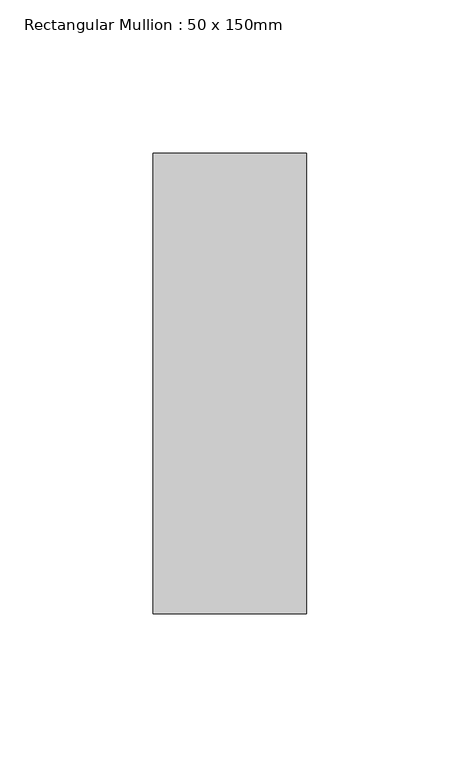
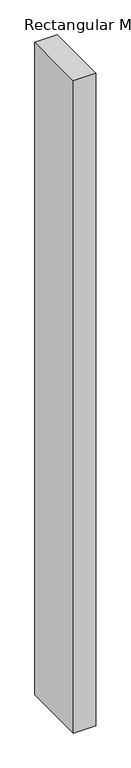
"""IFC4 building model written with IfcOpenShell, lengths in millimetres: member geometry, Rectangular Mullion : 50 x 150mm."""

import ifcopenshell
import ifcopenshell.guid

model = None  # the IFC model being written
_history = None  # IfcOwnerHistory: only IFC2X3 demands one
_inside = {}  # id of a spatial element -> (the spatial element, [elements in it])
_under = {}  # id of a project, library or spatial element -> (it, [spatial elements below it])
_declared = {}  # id of a project -> (the project, [libraries it declares])
_typed = {}  # id of a type object -> (the type object, [elements of that type])
_made_of = {}  # id of a material, layer set ... -> (it, [elements and type objects made of it])


def new_model(schema):
    """Start an empty IFC model of exactly this schema.

    Asked for "IFC4X3", IfcOpenShell would pick the latest addendum, in which some entities
    have other attributes; the version numbers below select the first issue.
    IFC2X3 requires an IfcOwnerHistory on every rooted entity: one is made here for all.
    """
    global model, _history
    if schema == "IFC4X3":
        model = ifcopenshell.file(schema_version=(4, 3, 0, 0))
    else:
        model = ifcopenshell.file(schema=schema)
    _inside.clear()
    _under.clear()
    _declared.clear()
    _typed.clear()
    _made_of.clear()
    _history = None
    if model.schema == "IFC2X3":
        org = make("IfcOrganization", Name="unknown")
        user = make(
            "IfcPersonAndOrganization",
            ThePerson=make("IfcPerson", FamilyName="unknown"),
            TheOrganization=org,
        )
        app = make(
            "IfcApplication",
            ApplicationDeveloper=org,
            Version="unknown",
            ApplicationFullName="unknown",
            ApplicationIdentifier="unknown",
        )
        _history = make(
            "IfcOwnerHistory",
            OwningUser=user,
            OwningApplication=app,
            ChangeAction="ADDED",
            CreationDate=0,
        )
    return model


def make(cls, **values):
    """One entity of the class cls with the attributes given. An attribute that is None is left unset."""
    return model.create_entity(
        cls, **{name: value for name, value in values.items() if value is not None}
    )


def rooted(cls, **values):
    """An entity with a GlobalId (a new one), such as an element, a storey or a relation."""
    return make(cls, GlobalId=ifcopenshell.guid.new(), OwnerHistory=_history, **values)


def si_unit(unit_type, name, prefix=None):
    """IfcSIUnit, for example si_unit("LENGTHUNIT", "METRE", prefix="MILLI")."""
    return make("IfcSIUnit", UnitType=unit_type, Prefix=prefix, Name=name)


def assignment(units):
    """IfcUnitAssignment: the units of a project."""
    return None if units is None else make("IfcUnitAssignment", Units=units)


def point(xyz):
    """IfcCartesianPoint."""
    return None if xyz is None else make("IfcCartesianPoint", Coordinates=xyz)


def direction(xyz):
    """IfcDirection."""
    return None if xyz is None else make("IfcDirection", DirectionRatios=xyz)


def frame(location, z_axis=None, x_axis=None):
    """IfcAxis2Placement3D, a coordinate frame: its origin and axes. An axis left out is left unset."""
    return make(
        "IfcAxis2Placement3D",
        Location=point(location),
        Axis=direction(z_axis),
        RefDirection=direction(x_axis),
    )


def origin():
    """The frame at (0, 0, 0) with its axes left unset."""
    return frame((0.0, 0.0, 0.0))


def place(relative_to, where):
    """IfcLocalPlacement: puts the frame where relative to a parent placement (None: the world)."""
    return make(
        "IfcLocalPlacement", PlacementRelTo=relative_to, RelativePlacement=where
    )


def context(
    kind, dimensions, precision=None, world=None, true_north=None, identifier=None
):
    """IfcGeometricRepresentationContext, for example the 3D "Model" context."""
    return make(
        "IfcGeometricRepresentationContext",
        ContextIdentifier=identifier,
        ContextType=kind,
        CoordinateSpaceDimension=dimensions,
        Precision=precision,
        WorldCoordinateSystem=world,
        TrueNorth=true_north,
    )


def project(units=None, contexts=None):
    """IfcProject with its units and contexts."""
    return rooted(
        "IfcProject",
        Name="project",
        RepresentationContexts=contexts,
        UnitsInContext=assignment(units),
    )


def spatial(cls, under=None, at=None, **own):
    """A site, building, storey or space (cls), placed at a placement, below another one or the project."""
    s = rooted(cls, ObjectPlacement=at, **own)
    if under is not None:
        _under.setdefault(under.id(), (under, []))[1].append(s)
    return s


def polyline(points):
    """IfcPolyline through the points."""
    return make("IfcPolyline", Points=[point(p) for p in points])


def outline(outer, holes=None, kind="AREA"):
    """IfcArbitraryClosedProfileDef: a profile drawn as a closed curve; with holes, ...WithVoids."""
    if holes is None:
        return make("IfcArbitraryClosedProfileDef", ProfileType=kind, OuterCurve=outer)
    return make(
        "IfcArbitraryProfileDefWithVoids",
        ProfileType=kind,
        OuterCurve=outer,
        InnerCurves=holes,
    )


def extrude(swept, where, along, depth):
    """IfcExtrudedAreaSolid: the profile swept, set in the frame where, extruded along a direction by depth."""
    return make(
        "IfcExtrudedAreaSolid",
        SweptArea=swept,
        Position=where,
        ExtrudedDirection=direction(along),
        Depth=depth,
    )


def shape(context_of_items, identifier, shape_type, items):
    """IfcShapeRepresentation: the items that make up one representation, for example the "Body"."""
    return make(
        "IfcShapeRepresentation",
        ContextOfItems=context_of_items,
        RepresentationIdentifier=identifier,
        RepresentationType=shape_type,
        Items=items,
    )


def source(mapping_origin, context_of_items, identifier, shape_type, items):
    """IfcRepresentationMap: a shape defined once, which mapped items show again and again."""
    return make(
        "IfcRepresentationMap",
        MappingOrigin=mapping_origin,
        MappedRepresentation=shape(context_of_items, identifier, shape_type, items),
    )


def transform(
    local_origin,
    x_axis=None,
    y_axis=None,
    z_axis=None,
    scale=None,
    scale2=None,
    scale3=None,
    uniform=True,
):
    """IfcCartesianTransformationOperator3D, or its non-uniform kind. x_axis, y_axis, z_axis: its Axis1, 2, 3."""
    if uniform:
        return make(
            "IfcCartesianTransformationOperator3D",
            Axis1=direction(x_axis),
            Axis2=direction(y_axis),
            LocalOrigin=point(local_origin),
            Scale=scale,
            Axis3=direction(z_axis),
        )
    return make(
        "IfcCartesianTransformationOperator3DnonUniform",
        Axis1=direction(x_axis),
        Axis2=direction(y_axis),
        LocalOrigin=point(local_origin),
        Scale=scale,
        Axis3=direction(z_axis),
        Scale2=scale2,
        Scale3=scale3,
    )


def mapped(mapping_source, mapping_target):
    """IfcMappedItem: shows the shape of a source again, moved by a transform."""
    return make(
        "IfcMappedItem", MappingSource=mapping_source, MappingTarget=mapping_target
    )


def made_of(thing, what):
    """Note that an element or type object is made of a material, layer set ...; save() writes the relation."""
    if what is not None:
        _made_of.setdefault(what.id(), (what, []))[1].append(thing)
    return thing


def element(
    cls,
    number,
    at=None,
    inside=None,
    cuts=None,
    type_object=None,
    material=None,
    context=None,
    identifier="Body",
    shape_type=None,
    held_by="IfcProductDefinitionShape",
    body=None,
    shapes=None,
    **own,
):
    """One element of the class cls, such as IfcWall. Its Tag is "e" and its number.

    at: its placement. inside: the storey or other place that contains it. cuts: it is an
    opening in that element (IfcRelVoidsElement). A single representation is given by context,
    identifier, shape_type and body (its items); several are given by shapes. held_by: the class
    of the entity that holds the representations. save() writes the other relations.
    """
    e = rooted(cls, Tag="e%d" % number, ObjectPlacement=at, **own)
    if body is not None:
        shapes = [shape(context, identifier, shape_type, body)]
    if shapes is not None:
        e.Representation = make(held_by, Representations=shapes)
    if inside is not None:
        _inside.setdefault(inside.id(), (inside, []))[1].append(e)
    if cuts is not None:
        rooted(
            "IfcRelVoidsElement", RelatingBuildingElement=cuts, RelatedOpeningElement=e
        )
    if type_object is not None:
        _typed.setdefault(type_object.id(), (type_object, []))[1].append(e)
    return made_of(e, material)


def aggregate(whole, parts):
    """IfcRelAggregates: a whole, such as a stair, and the parts it consists of."""
    return rooted("IfcRelAggregates", RelatingObject=whole, RelatedObjects=parts)


def save(model, path):
    """Write the relations noted so far, then the file.

    IfcRelAggregates (storeys below a building ...), IfcRelContainedInSpatialStructure (elements
    in a storey), IfcRelDefinesByType, IfcRelAssociatesMaterial and IfcRelDeclares: one each for
    every whole, place, type object, material and project.
    """
    for whole, parts in _under.values():
        aggregate(whole, parts)
    for where, things in _inside.values():
        rooted(
            "IfcRelContainedInSpatialStructure",
            RelatedElements=things,
            RelatingStructure=where,
        )
    for kind, things in _typed.values():
        rooted("IfcRelDefinesByType", RelatedObjects=things, RelatingType=kind)
    for what, things in _made_of.values():
        rooted("IfcRelAssociatesMaterial", RelatedObjects=things, RelatingMaterial=what)
    for by, libraries in _declared.values():
        rooted("IfcRelDeclares", RelatingContext=by, RelatedDefinitions=libraries)
    model.write(path)


def rectangular_mullion_50_x_150mm_66b35e09(model_context):
    return source(origin(), model_context, "Body", "SweptSolid", [
        extrude(outline(polyline([(0.0, 0.0), (-0.2077709, -50.0), (-1550.6740233, -50.0), (-1550.8329914, 0.0), (0.0, 0.0)])), frame((0.0, -75.0, 0.0), z_axis=(0.0, 1.0, 0.0), x_axis=(0.0, 0.0, 1.0)), (0.0, 0.0, 1.0), 150.0),
    ])


if __name__ == "__main__":
    model = new_model("IFC4")
    model_context = context("Model", 3, world=origin())
    ifc_project = project(units=[si_unit("LENGTHUNIT", "METRE", prefix="MILLI")], contexts=[model_context])
    site = spatial("IfcSite", under=ifc_project)
    building = spatial("IfcBuilding", under=site)
    placement = place(None, origin())
    rectangular_mullion_50_x_150mm_shape = rectangular_mullion_50_x_150mm_66b35e09(model_context)
    element("IfcMember", 1, ObjectType="Rectangular Mullion : 50 x 150mm", at=placement, inside=building, context=model_context, shape_type="MappedRepresentation", body=[
        mapped(rectangular_mullion_50_x_150mm_shape, transform((0.0, 0.0, 0.0), x_axis=(1.0, 0.0, 0.0), y_axis=(0.0, 1.0, 0.0), z_axis=(0.0, 0.0, 1.0))),
    ])
    save(model, "model.ifc")
